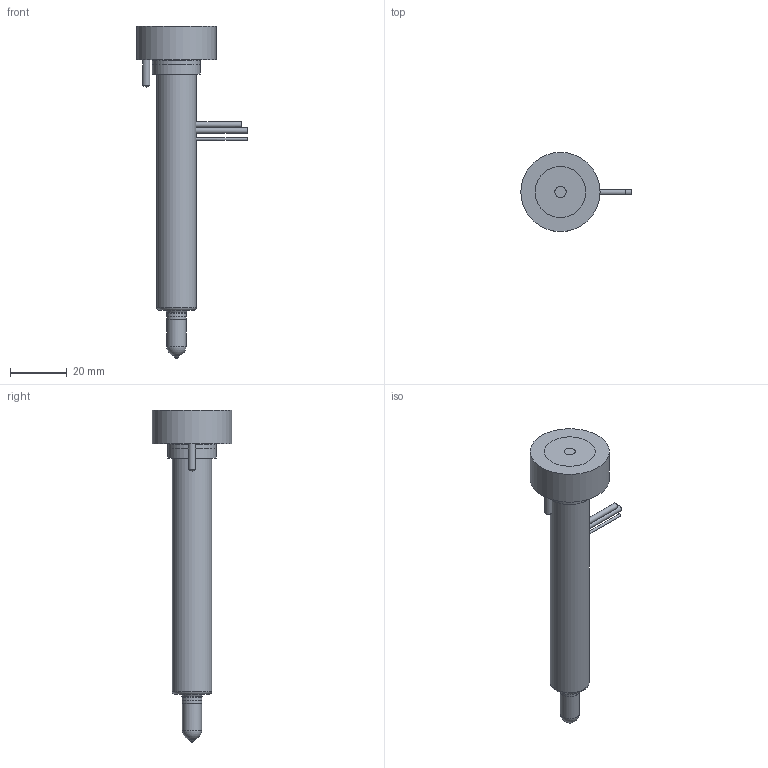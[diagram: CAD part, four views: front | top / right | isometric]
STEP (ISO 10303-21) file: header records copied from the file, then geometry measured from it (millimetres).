
FILE_DESCRIPTION(/* description */ (''),/* implementation_level */ '2;1');
FILE_NAME(/* name */ 'MJTT09095-10_250C_a',/* time_stamp */ '2008-11-14T17:54:05+13:00',/* author */ (''),/* organization */ (''),/* preprocessor_version */ 'ST-DEVELOPER v9',/* originating_system */ 'UGS - NX 4.0',/* authorisation */ '');
FILE_SCHEMA (('CONFIG_CONTROL_DESIGN'));
Length unit declared in the file: millimetre
Products named in the file (1): Matt5FEBawub
Bounding box: 39 x 28 x 117.45 mm (x, y, z)
Volume: 38159.4 mm3; surface area: 12398 mm2
Topology: 2 solids, 2 shells, 90 faces, 207 edges, 133 vertices
Faces by surface type: plane 36, cylinder 33, cone 11, torus 9, sphere 1
Full cylindrical faces by diameter (mm): 0.7 x1, 1 x1, 2 x2, 2.5 x2, 3.6 x1, 4 x1, 5.2 x1, 6.61 x1, 6.8 x1, 7.01 x2, 8 x1, 13 x1, 13.002 x1, 14 x1, 17 x2, 28 x1
Entity records: 2560 total; most frequent: CARTESIAN_POINT 637, DIRECTION 402, ORIENTED_EDGE 308, AXIS2_PLACEMENT_3D 176, EDGE_CURVE 154, EDGE_LOOP 142, VERTEX_POINT 121, ADVANCED_FACE 90
